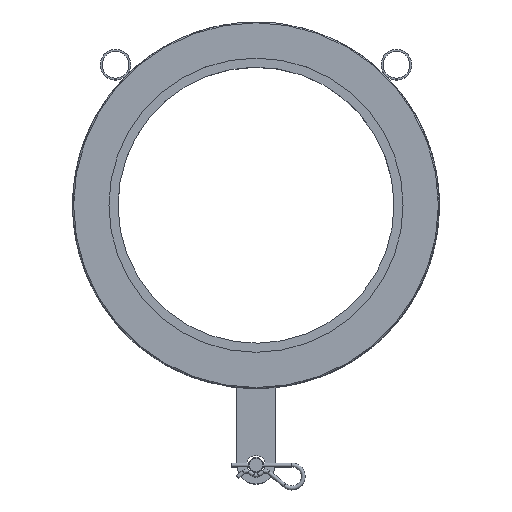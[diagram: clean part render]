
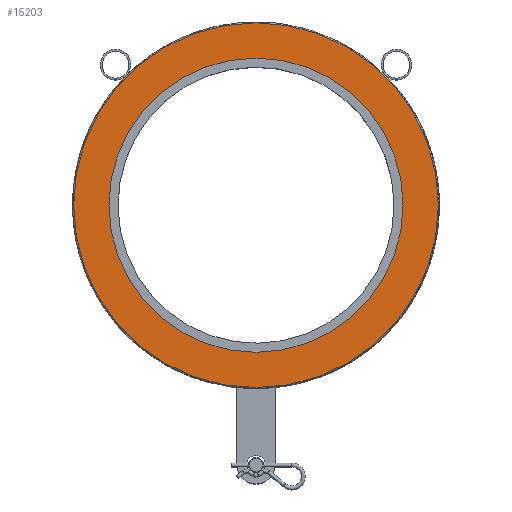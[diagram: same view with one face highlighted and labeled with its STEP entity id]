
A CAD part, top view. The second image highlights one B-rep face of the part: STEP entity #15203.
In plain terms, the highlighted planar face has unit normal (0, 0, 1).
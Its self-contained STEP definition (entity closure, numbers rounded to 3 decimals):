
#507=FACE_BOUND('',#3382,.T.);
#1651=PLANE('',#16009);
#2466=FACE_OUTER_BOUND('',#3381,.T.);
#3381=EDGE_LOOP('',(#13956));
#3382=EDGE_LOOP('',(#13957));
#5860=CIRCLE('',#16005,154.);
#5861=CIRCLE('',#16007,191.);
#7339=VERTEX_POINT('',#36228);
#7340=VERTEX_POINT('',#36232);
#9559=EDGE_CURVE('',#7339,#7339,#5860,.T.);
#9561=EDGE_CURVE('',#7340,#7340,#5861,.T.);
#13956=ORIENTED_EDGE('',*,*,#9561,.F.);
#13957=ORIENTED_EDGE('',*,*,#9559,.T.);
#15203=ADVANCED_FACE('',(#2466,#507),#1651,.T.);
#16005=AXIS2_PLACEMENT_3D('',#36229,#18565,#18566);
#16007=AXIS2_PLACEMENT_3D('',#36233,#18570,#18571);
#16009=AXIS2_PLACEMENT_3D('',#36236,#18575,#18576);
#18565=DIRECTION('center_axis',(0.,0.,
-1.));
#18566=DIRECTION('ref_axis',(-1.,0.,0.));
#18570=DIRECTION('center_axis',(0.,0.,
-1.));
#18571=DIRECTION('ref_axis',(-1.,0.,0.));
#18575=DIRECTION('center_axis',(0.,0.,
1.));
#18576=DIRECTION('ref_axis',(-1.,0.,0.));
#36228=CARTESIAN_POINT('',(154.,0.,97.));
#36229=CARTESIAN_POINT('Origin',(0.,0.,
97.));
#36232=CARTESIAN_POINT('',(191.,0.,97.));
#36233=CARTESIAN_POINT('Origin',(0.,0.,
97.));
#36236=CARTESIAN_POINT('Origin',(0.,0.,
97.));
